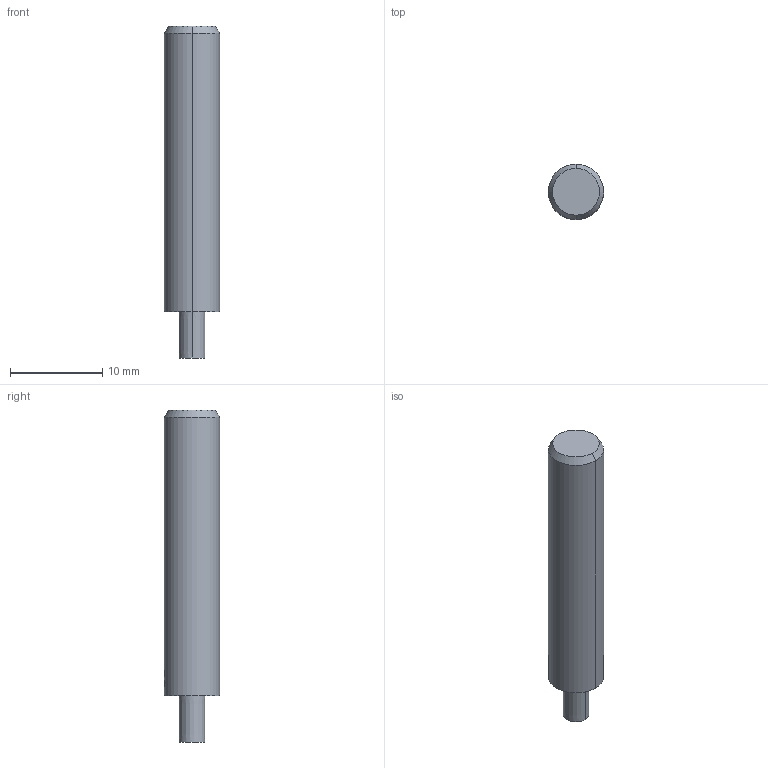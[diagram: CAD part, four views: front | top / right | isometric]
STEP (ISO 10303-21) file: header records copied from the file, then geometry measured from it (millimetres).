
FILE_DESCRIPTION(('no description'),'unknown implementation level');
FILE_NAME('solidFVoqbQQkkjN5vbvKB5mlP8brihM_1.STP',' ',('CIMSOURCE GmbH'),('CADClick - KiM GmbH - www.kimweb.de'),'unknown preprocess','ACIS','unknown authorization');
FILE_SCHEMA(('automotive_design'));
Length unit declared in the file: millimetre
Products named in the file (2): NOCUT; CUT
Bounding box: 6 x 6 x 36 mm (x, y, z)
Volume: 903.8 mm3; surface area: 691.2 mm2
Topology: 2 solids, 2 shells, 23 faces, 55 edges, 36 vertices
Faces by surface type: cylinder 10, plane 9, cone 4
Entity records: 1560 total; most frequent: CARTESIAN_POINT 336, STYLED_ITEM 116, PRESENTATION_STYLE_ASSIGNMENT 116, COLOUR_RGB 116, DIRECTION 115, ORIENTED_EDGE 110, EDGE_CURVE 55, CURVE_STYLE 55
